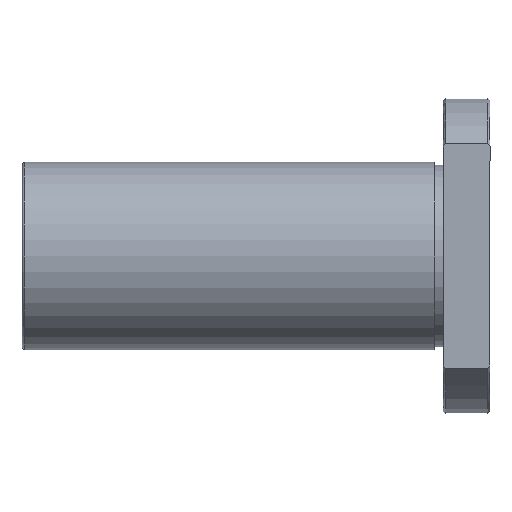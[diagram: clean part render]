
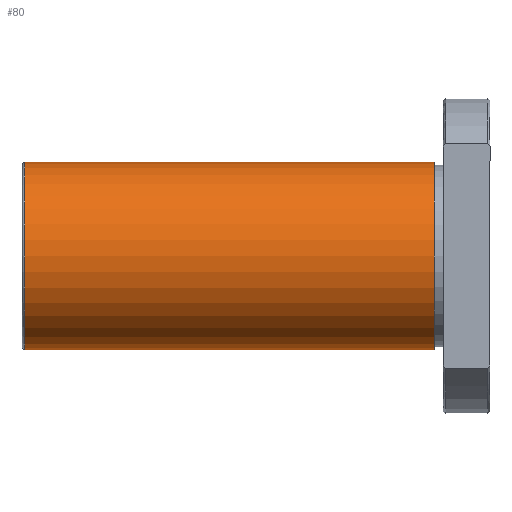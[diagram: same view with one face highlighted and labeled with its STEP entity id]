
A CAD part, front view. The second image highlights one B-rep face of the part: STEP entity #80.
In plain terms, the highlighted cylindrical face has radius 16 mm (diameter 32 mm), a full revolution.
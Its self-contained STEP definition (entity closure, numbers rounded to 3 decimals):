
#80=ADVANCED_FACE('',(#114,#115),#116,.T.);
#114=FACE_OUTER_BOUND('',#198,.T.);
#115=FACE_OUTER_BOUND('',#199,.T.);
#116=CYLINDRICAL_SURFACE('',#200,16.0);
#198=EDGE_LOOP('',(#311));
#199=EDGE_LOOP('',(#312));
#200=AXIS2_PLACEMENT_3D('',#313,#314,#315);
#311=ORIENTED_EDGE('',*,*,#468,.F.);
#312=ORIENTED_EDGE('',*,*,#469,.T.);
#313=CARTESIAN_POINT('',(-25.5,0.,0.0));
#314=DIRECTION('',(1.0,-0.0,0.));
#315=DIRECTION('',(0.0,1.0,0.0));
#468=EDGE_CURVE('',#529,#529,#530,.T.);
#469=EDGE_CURVE('',#531,#531,#532,.T.);
#529=VERTEX_POINT('',#639);
#530=CIRCLE('',#640,16.0);
#531=VERTEX_POINT('',#641);
#532=CIRCLE('',#642,16.0);
#639=CARTESIAN_POINT('',(-9.5,16.0,0.0));
#640=AXIS2_PLACEMENT_3D('',#725,#726,#727);
#641=CARTESIAN_POINT('',(-79.5,16.0,0.));
#642=AXIS2_PLACEMENT_3D('',#728,#729,#730);
#725=CARTESIAN_POINT('',(-9.5,0.0,0.0));
#726=DIRECTION('',(1.0,0.0,0.));
#727=DIRECTION('',(0.0,1.0,0.0));
#728=CARTESIAN_POINT('',(-79.5,0.,0.));
#729=DIRECTION('',(1.0,0.0,0.));
#730=DIRECTION('',(0.0,1.0,0.0));
